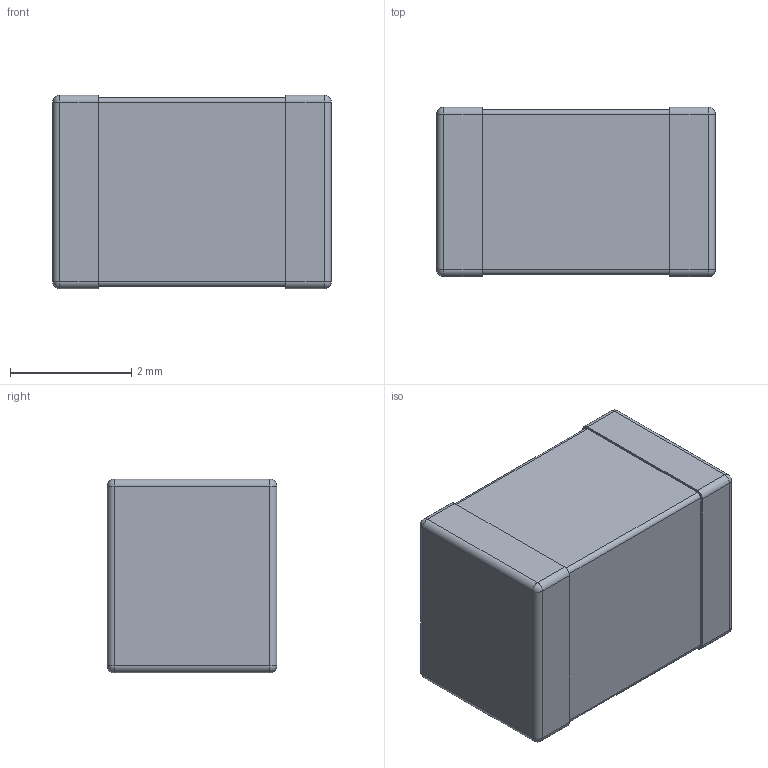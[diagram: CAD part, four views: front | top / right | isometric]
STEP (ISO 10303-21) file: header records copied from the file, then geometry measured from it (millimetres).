
FILE_DESCRIPTION (( 'STEP AP214' ), '1' );
FILE_NAME ('1812HC222KAT1A.STEP', '2019-12-28T10:47:51', ( '' ), ( '' ), 'SwSTEP 2.0', 'SolidWorks 2018', '' );
FILE_SCHEMA (( 'AUTOMOTIVE_DESIGN' ));
Length unit declared in the file: millimetre
Products named in the file (1): 1812HC222KAT1A
Bounding box: 4.6 x 2.8 x 3.2 mm (x, y, z)
Volume: 39.7 mm3; surface area: 105.2 mm2
Topology: 3 solids, 3 shells, 46 faces, 104 edges, 56 vertices
Faces by surface type: cylinder 20, plane 18, sphere 8
Entity records: 1260 total; most frequent: DIRECTION 230, CARTESIAN_POINT 199, ORIENTED_EDGE 192, EDGE_CURVE 96, AXIS2_PLACEMENT_3D 87, LINE 56, VERTEX_POINT 56, VECTOR 56
